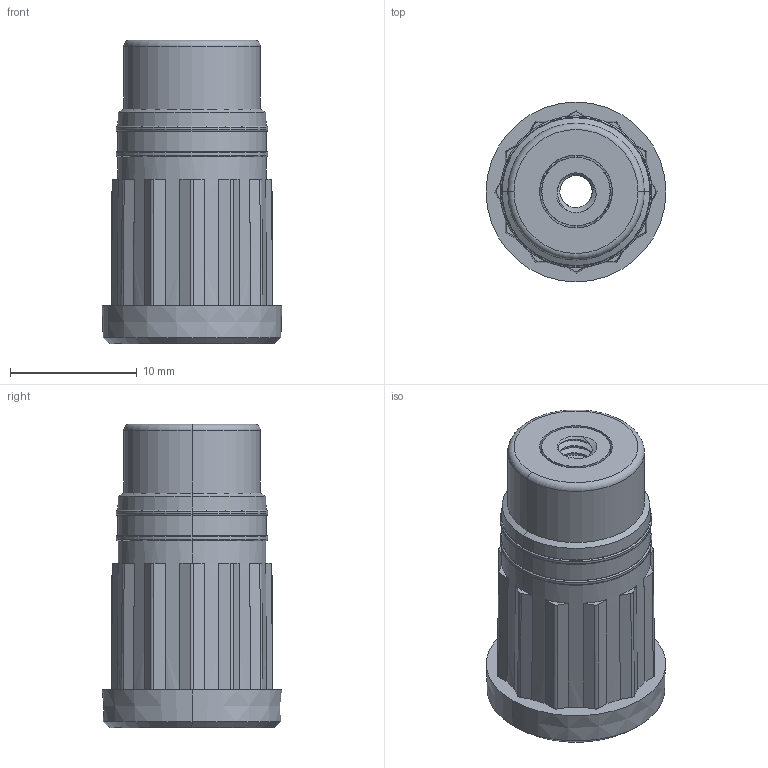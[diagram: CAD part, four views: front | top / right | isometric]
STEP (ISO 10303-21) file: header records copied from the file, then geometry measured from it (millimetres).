
FILE_DESCRIPTION (( 'STEP AP203' ), '1' );
FILE_NAME ('CT2914-7.STEP', '2017-10-12T15:27:59', ( '' ), ( '' ), 'SwSTEP 2.0', 'SolidWorks 2014', '' );
FILE_SCHEMA (( 'CONFIG_CONTROL_DESIGN' ));
Length unit declared in the file: millimetre
Products named in the file (5): 440-310_440-310-07; 440-310; 440-3xx_440-308; CT2914-7; 440-3xx
Assembly tree (2 placements, depth 2):
  440-310
  CT2914-7
    440-310_440-310-07
    440-3xx_440-308
  440-3xx
Bounding box: 14.21 x 14.21 x 24 mm (x, y, z)
Volume: 1745.1 mm3; surface area: 3083.7 mm2
Topology: 2 solids, 2 shells, 274 faces, 663 edges, 419 vertices
Faces by surface type: plane 180, cone 45, cylinder 18, torus 16, bspline 15
Entity records: 9734 total; most frequent: CARTESIAN_POINT 2930, ORIENTED_EDGE 1326, DIRECTION 1317, EDGE_CURVE 663, AXIS2_PLACEMENT_3D 478, VERTEX_POINT 419, VECTOR 361, LINE 361
